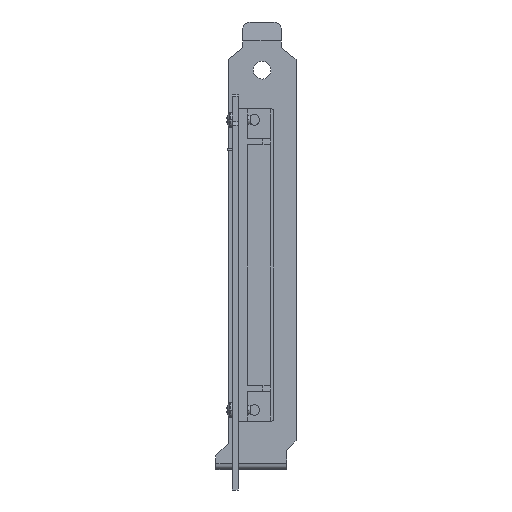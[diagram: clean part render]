
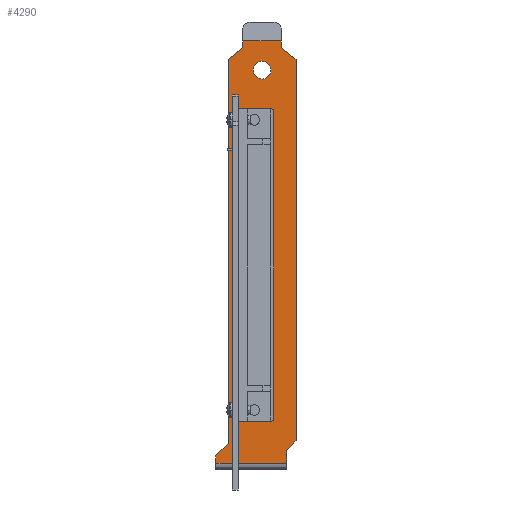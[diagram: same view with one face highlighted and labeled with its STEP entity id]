
A CAD part, front view. The second image highlights one B-rep face of the part: STEP entity #4290.
In plain terms, the highlighted planar face has unit normal (0, -1, 0).
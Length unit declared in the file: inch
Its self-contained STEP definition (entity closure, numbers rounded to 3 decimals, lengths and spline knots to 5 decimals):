
#296=DIRECTION('',(1.,0.,0.));
#297=VECTOR('',#296,0.366);
#298=CARTESIAN_POINT('',(0.05,0.33,-3.2725));
#299=LINE('',#298,#297);
#328=DIRECTION('',(1.,0.,0.));
#329=VECTOR('',#328,0.412);
#330=CARTESIAN_POINT('',(0.108,0.33,0.764));
#331=LINE('',#330,#329);
#332=DIRECTION('',(0.,0.,-1.));
#333=VECTOR('',#332,0.074);
#334=CARTESIAN_POINT('',(0.52,0.33,0.764));
#335=LINE('',#334,#333);
#336=DIRECTION('',(-0.788,0.,0.616));
#337=VECTOR('',#336,0.1967);
#338=CARTESIAN_POINT('',(0.675,0.33,0.5689));
#339=LINE('',#338,#337);
#340=DIRECTION('',(0.707,0.,0.707));
#341=VECTOR('',#340,0.14142);
#342=CARTESIAN_POINT('',(0.575,0.33,-3.583));
#343=LINE('',#342,#341);
#344=DIRECTION('',(0.,0.,1.));
#345=VECTOR('',#344,0.137);
#346=CARTESIAN_POINT('',(0.575,0.33,-3.72));
#347=LINE('',#346,#345);
#348=DIRECTION('',(-1.,0.,0.));
#349=VECTOR('',#348,0.75);
#350=CARTESIAN_POINT('',(0.575,0.33,-3.72));
#351=LINE('',#350,#349);
#352=DIRECTION('',(-0.707,0.,-0.707));
#353=VECTOR('',#352,0.18102);
#354=CARTESIAN_POINT('',(-0.047,0.33,-3.514));
#355=LINE('',#354,#353);
#356=DIRECTION('',(0.,0.,-1.));
#357=VECTOR('',#356,4.0829);
#358=CARTESIAN_POINT('',(-0.047,0.33,0.5689));
#359=LINE('',#358,#357);
#360=DIRECTION('',(-0.788,0.,-0.616));
#361=VECTOR('',#360,0.1967);
#362=CARTESIAN_POINT('',(0.108,0.33,0.69));
#363=LINE('',#362,#361);
#364=DIRECTION('',(0.,0.,-1.));
#365=VECTOR('',#364,0.074);
#366=CARTESIAN_POINT('',(0.108,0.33,0.764));
#367=LINE('',#366,#365);
#368=CARTESIAN_POINT('',(0.314,0.33,0.453));
#369=DIRECTION('',(0.,1.,0.));
#370=DIRECTION('',(0.,0.,1.));
#371=AXIS2_PLACEMENT_3D('',#368,#369,#370);
#373=CARTESIAN_POINT('',(0.314,0.33,0.453));
#374=DIRECTION('',(0.,1.,0.));
#375=DIRECTION('',(0.,0.,-1.));
#376=AXIS2_PLACEMENT_3D('',#373,#374,#375);
#424=DIRECTION('',(0.,0.,1.));
#425=VECTOR('',#424,0.078);
#426=CARTESIAN_POINT('',(-0.175,0.33,-3.72));
#427=LINE('',#426,#425);
#782=DIRECTION('',(0.,0.,1.));
#783=VECTOR('',#782,4.0519);
#784=CARTESIAN_POINT('',(0.675,0.33,-3.483));
#785=LINE('',#784,#783);
#1326=DIRECTION('',(0.,0.,-1.));
#1327=VECTOR('',#1326,3.275);
#1328=CARTESIAN_POINT('',(0.03,0.33,0.0225));
#1329=LINE('',#1328,#1327);
#1334=CARTESIAN_POINT('',(0.05,0.33,0.0225));
#1335=DIRECTION('',(0.,1.,0.));
#1336=DIRECTION('',(-1.,0.,0.));
#1337=AXIS2_PLACEMENT_3D('',#1334,#1335,#1336);
#1352=DIRECTION('',(1.,0.,0.));
#1353=VECTOR('',#1352,0.366);
#1354=CARTESIAN_POINT('',(0.05,0.33,0.0425));
#1355=LINE('',#1354,#1353);
#1380=CARTESIAN_POINT('',(0.416,0.33,0.0225));
#1381=DIRECTION('',(0.,-1.,0.));
#1382=DIRECTION('',(1.,0.,0.));
#1383=AXIS2_PLACEMENT_3D('',#1380,#1381,#1382);
#1398=DIRECTION('',(0.,0.,-1.));
#1399=VECTOR('',#1398,3.275);
#1400=CARTESIAN_POINT('',(0.436,0.33,0.0225));
#1401=LINE('',#1400,#1399);
#1406=CARTESIAN_POINT('',(0.416,0.33,-3.2525));
#1407=DIRECTION('',(0.,1.,0.));
#1408=DIRECTION('',(1.,0.,0.));
#1409=AXIS2_PLACEMENT_3D('',#1406,#1407,#1408);
#1923=CARTESIAN_POINT('',(0.05,0.33,-3.2525));
#1924=DIRECTION('',(0.,-1.,0.));
#1925=DIRECTION('',(-1.,0.,0.));
#1926=AXIS2_PLACEMENT_3D('',#1923,#1924,#1925);
#3590=CARTESIAN_POINT('',(-0.175,0.33,-3.72));
#3592=VERTEX_POINT('',#3590);
#3593=CARTESIAN_POINT('',(0.575,0.33,-3.72));
#3595=VERTEX_POINT('',#3593);
#3597=CARTESIAN_POINT('',(0.575,0.33,-3.583));
#3598=VERTEX_POINT('',#3597);
#3599=CARTESIAN_POINT('',(0.675,0.33,-3.483));
#3600=VERTEX_POINT('',#3599);
#3601=CARTESIAN_POINT('',(0.108,0.33,0.69));
#3602=CARTESIAN_POINT('',(-0.047,0.33,0.5689));
#3603=VERTEX_POINT('',#3601);
#3604=VERTEX_POINT('',#3602);
#3605=CARTESIAN_POINT('',(-0.047,0.33,-3.514));
#3606=VERTEX_POINT('',#3605);
#3607=CARTESIAN_POINT('',(-0.175,0.33,-3.642));
#3608=VERTEX_POINT('',#3607);
#3609=CARTESIAN_POINT('',(0.675,0.33,0.5689));
#3610=CARTESIAN_POINT('',(0.52,0.33,0.69));
#3611=VERTEX_POINT('',#3609);
#3612=VERTEX_POINT('',#3610);
#3721=CARTESIAN_POINT('',(0.314,0.33,0.5465));
#3722=CARTESIAN_POINT('',(0.314,0.33,0.3595));
#3723=VERTEX_POINT('',#3721);
#3724=VERTEX_POINT('',#3722);
#3725=CARTESIAN_POINT('',(0.108,0.33,0.764));
#3726=VERTEX_POINT('',#3725);
#3727=CARTESIAN_POINT('',(0.52,0.33,0.764));
#3728=VERTEX_POINT('',#3727);
#3749=CARTESIAN_POINT('',(0.03,0.33,0.0225));
#3750=CARTESIAN_POINT('',(0.03,0.33,-3.2525));
#3751=VERTEX_POINT('',#3749);
#3752=VERTEX_POINT('',#3750);
#3753=CARTESIAN_POINT('',(0.436,0.33,0.0225));
#3754=CARTESIAN_POINT('',(0.436,0.33,-3.2525));
#3755=VERTEX_POINT('',#3753);
#3756=VERTEX_POINT('',#3754);
#3757=CARTESIAN_POINT('',(0.05,0.33,0.0425));
#3758=CARTESIAN_POINT('',(0.416,0.33,0.0425));
#3759=VERTEX_POINT('',#3757);
#3760=VERTEX_POINT('',#3758);
#3761=CARTESIAN_POINT('',(0.05,0.33,-3.2725));
#3762=CARTESIAN_POINT('',(0.416,0.33,-3.2725));
#3763=VERTEX_POINT('',#3761);
#3764=VERTEX_POINT('',#3762);
#4236=CARTESIAN_POINT('',(0.675,0.33,-3.72));
#4237=DIRECTION('',(0.,1.,0.));
#4238=DIRECTION('',(0.,0.,1.));
#4239=AXIS2_PLACEMENT_3D('',#4236,#4237,#4238);
#4240=PLANE('',#4239);
#4242=ORIENTED_EDGE('',*,*,#4241,.T.);
#4244=ORIENTED_EDGE('',*,*,#4243,.T.);
#4246=ORIENTED_EDGE('',*,*,#4245,.F.);
#4248=ORIENTED_EDGE('',*,*,#4247,.F.);
#4250=ORIENTED_EDGE('',*,*,#4249,.F.);
#4252=ORIENTED_EDGE('',*,*,#4251,.F.);
#4254=ORIENTED_EDGE('',*,*,#4253,.T.);
#4256=ORIENTED_EDGE('',*,*,#4255,.T.);
#4258=ORIENTED_EDGE('',*,*,#4257,.F.);
#4260=ORIENTED_EDGE('',*,*,#4259,.F.);
#4262=ORIENTED_EDGE('',*,*,#4261,.F.);
#4264=ORIENTED_EDGE('',*,*,#4263,.F.);
#4265=EDGE_LOOP('',(#4242,#4244,#4246,#4248,#4250,#4252,#4254,#4256,#4258,#4260,
#4262,#4264));
#4266=FACE_OUTER_BOUND('',#4265,.F.);
#4268=ORIENTED_EDGE('',*,*,#4267,.F.);
#4270=ORIENTED_EDGE('',*,*,#4269,.F.);
#4271=EDGE_LOOP('',(#4268,#4270));
#4272=FACE_BOUND('',#4271,.F.);
#4274=ORIENTED_EDGE('',*,*,#4273,.T.);
#4276=ORIENTED_EDGE('',*,*,#4275,.T.);
#4277=ORIENTED_EDGE('',*,*,#4212,.T.);
#4279=ORIENTED_EDGE('',*,*,#4278,.F.);
#4281=ORIENTED_EDGE('',*,*,#4280,.F.);
#4283=ORIENTED_EDGE('',*,*,#4282,.T.);
#4285=ORIENTED_EDGE('',*,*,#4284,.F.);
#4287=ORIENTED_EDGE('',*,*,#4286,.F.);
#4288=EDGE_LOOP('',(#4274,#4276,#4277,#4279,#4281,#4283,#4285,#4287));
#4289=FACE_BOUND('',#4288,.F.);
#4290=ADVANCED_FACE('',(#4266,#4272,#4289),#4240,.F.);
#372=CIRCLE('',#371,0.0935);
#377=CIRCLE('',#376,0.0935);
#1338=CIRCLE('',#1337,0.02);
#1384=CIRCLE('',#1383,0.02);
#1410=CIRCLE('',#1409,0.02);
#1927=CIRCLE('',#1926,0.02);
#4212=EDGE_CURVE('',#3763,#3764,#299,.T.);
#4241=EDGE_CURVE('',#3726,#3728,#331,.T.);
#4243=EDGE_CURVE('',#3728,#3612,#335,.T.);
#4245=EDGE_CURVE('',#3611,#3612,#339,.T.);
#4247=EDGE_CURVE('',#3600,#3611,#785,.T.);
#4249=EDGE_CURVE('',#3598,#3600,#343,.T.);
#4251=EDGE_CURVE('',#3595,#3598,#347,.T.);
#4253=EDGE_CURVE('',#3595,#3592,#351,.T.);
#4255=EDGE_CURVE('',#3592,#3608,#427,.T.);
#4257=EDGE_CURVE('',#3606,#3608,#355,.T.);
#4259=EDGE_CURVE('',#3604,#3606,#359,.T.);
#4261=EDGE_CURVE('',#3603,#3604,#363,.T.);
#4263=EDGE_CURVE('',#3726,#3603,#367,.T.);
#4267=EDGE_CURVE('',#3723,#3724,#372,.T.);
#4269=EDGE_CURVE('',#3724,#3723,#377,.T.);
#4273=EDGE_CURVE('',#3751,#3752,#1329,.T.);
#4275=EDGE_CURVE('',#3752,#3763,#1927,.T.);
#4278=EDGE_CURVE('',#3756,#3764,#1410,.T.);
#4280=EDGE_CURVE('',#3755,#3756,#1401,.T.);
#4282=EDGE_CURVE('',#3755,#3760,#1384,.T.);
#4284=EDGE_CURVE('',#3759,#3760,#1355,.T.);
#4286=EDGE_CURVE('',#3751,#3759,#1338,.T.);
